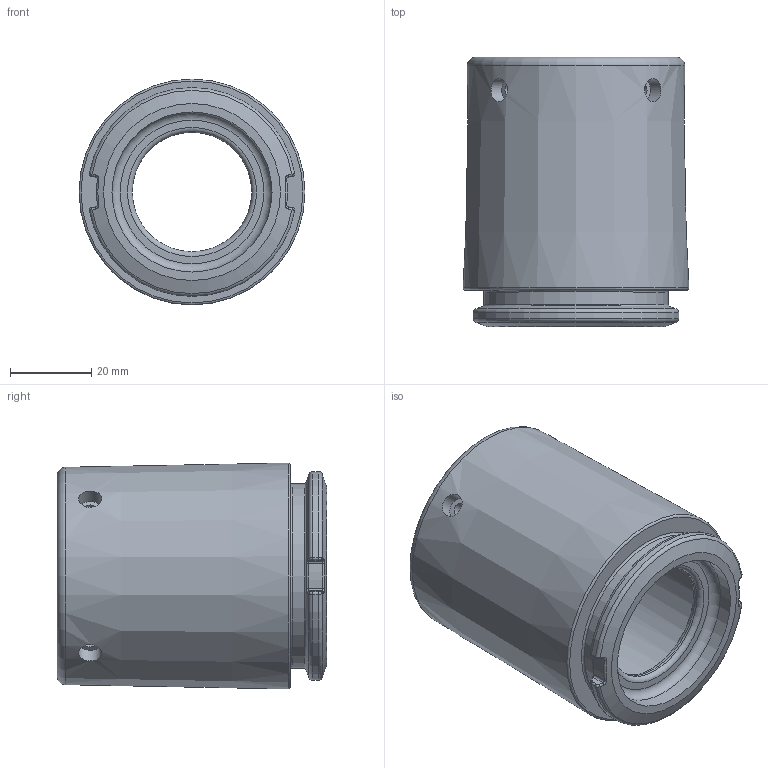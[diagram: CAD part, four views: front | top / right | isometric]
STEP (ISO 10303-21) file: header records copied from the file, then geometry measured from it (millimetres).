
FILE_DESCRIPTION (( 'STEP AP214' ), '1' );
FILE_NAME ('RB022-4400-03_灵巧手转接件-塑料件.STEP', '2026-04-15T05:49:19', ( '' ), ( '' ), 'SwSTEP 2.0', 'SolidWorks 2024', '' );
FILE_SCHEMA (( 'AUTOMOTIVE_DESIGN' ));
Length unit declared in the file: millimetre
Products named in the file (1): RB022-4400-03_灵巧手转接件-塑料件
Bounding box: 55.58 x 66.25 x 55.58 mm (x, y, z)
Volume: 70769.3 mm3; surface area: 22922.7 mm2
Topology: 1 solids, 1 shells, 93 faces, 207 edges, 124 vertices
Faces by surface type: cylinder 28, bspline 26, torus 20, plane 14, cone 5
Full cylindrical faces by diameter (mm): 3.3 x4, 5.7 x4, 29.356 x1, 39.356 x2, 45.356 x1
Entity records: 3847 total; most frequent: CARTESIAN_POINT 2074, ORIENTED_EDGE 348, DIRECTION 332, EDGE_CURVE 174, AXIS2_PLACEMENT_3D 156, EDGE_LOOP 134, VERTEX_POINT 114, FACE_OUTER_BOUND 113
